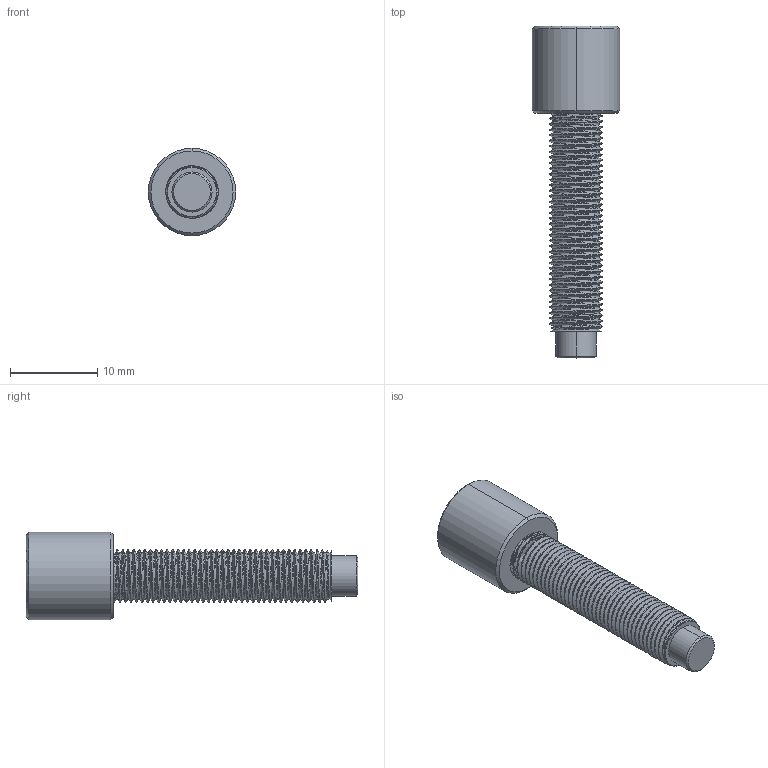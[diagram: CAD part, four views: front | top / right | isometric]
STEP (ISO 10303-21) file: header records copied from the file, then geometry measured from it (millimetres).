
FILE_DESCRIPTION (( 'STEP AP214' ), '1' );
FILE_NAME ('2傻階裝.STEP', '2026-10-09T05:40:58', ( '' ), ( '' ), 'SwSTEP 2.0', 'SolidWorks 2024', '' );
FILE_SCHEMA (( 'AUTOMOTIVE_DESIGN' ));
Length unit declared in the file: millimetre
Products named in the file (1): 2短顶杆
Bounding box: 10 x 38 x 10 mm (x, y, z)
Volume: 1427.2 mm3; surface area: 1249.9 mm2
Topology: 1 solids, 1 shells, 117 faces, 315 edges, 203 vertices
Faces by surface type: cylinder 85, plane 17, cone 12, bspline 3
Entity records: 10234 total; most frequent: CARTESIAN_POINT 7689, ORIENTED_EDGE 630, DIRECTION 402, EDGE_CURVE 315, VERTEX_POINT 203, AXIS2_PLACEMENT_3D 139, LINE 124, VECTOR 124
